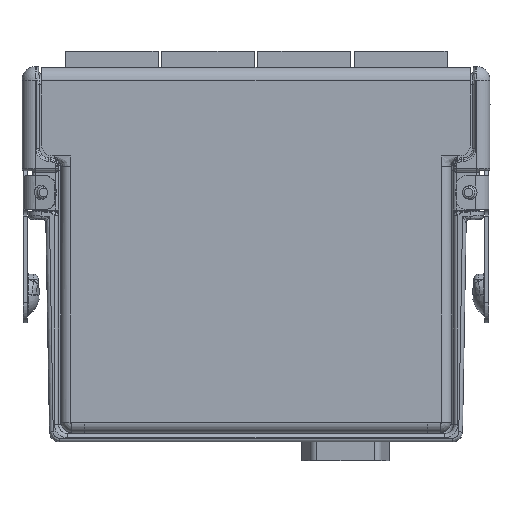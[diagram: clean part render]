
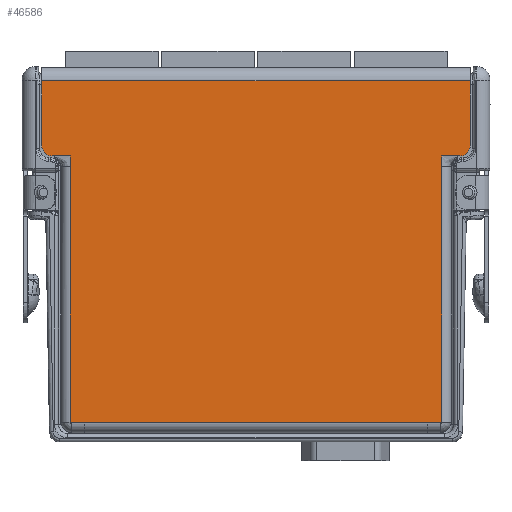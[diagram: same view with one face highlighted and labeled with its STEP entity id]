
A CAD part, left-side view. The second image highlights one B-rep face of the part: STEP entity #46586.
In plain terms, the highlighted planar face has unit normal (-1, 0, 0).
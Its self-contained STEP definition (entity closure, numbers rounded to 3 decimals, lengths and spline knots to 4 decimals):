
#18119=DIRECTION('',(0.,-1.,0.));
#18120=VECTOR('',#18119,3.179);
#18121=CARTESIAN_POINT('',(-0.4475,1.5895,2.676));
#18122=LINE('',#18121,#18120);
#18215=CARTESIAN_POINT('',(-0.4475,1.5095,2.2));
#18216=DIRECTION('',(-1.,0.,0.));
#18217=DIRECTION('',(0.,1.,0.));
#18218=AXIS2_PLACEMENT_3D('',#18215,#18216,#18217);
#18220=DIRECTION('',(0.,-1.,0.));
#18221=VECTOR('',#18220,0.133);
#18222=CARTESIAN_POINT('',(-0.4475,1.5095,2.12));
#18223=LINE('',#18222,#18221);
#18232=DIRECTION('',(0.,0.,-1.));
#18233=VECTOR('',#18232,0.476);
#18234=CARTESIAN_POINT('',(-0.4475,1.5895,2.676));
#18235=LINE('',#18234,#18233);
#18236=DIRECTION('',(0.,0.,1.));
#18237=VECTOR('',#18236,0.476);
#18238=CARTESIAN_POINT('',(-0.4475,-1.5895,2.2));
#18239=LINE('',#18238,#18237);
#18240=DIRECTION('',(0.,0.,1.));
#18241=VECTOR('',#18240,0.079);
#18242=CARTESIAN_POINT('',(-0.4475,-1.3765,2.041));
#18243=LINE('',#18242,#18241);
#18244=DIRECTION('',(0.,-1.,0.));
#18245=VECTOR('',#18244,0.105);
#18246=CARTESIAN_POINT('',(-0.4475,-1.2715,0.146));
#18247=LINE('',#18246,#18245);
#18248=DIRECTION('',(0.,-1.,0.));
#18249=VECTOR('',#18248,0.105);
#18250=CARTESIAN_POINT('',(-0.4475,1.3765,0.146));
#18251=LINE('',#18250,#18249);
#18252=DIRECTION('',(0.,0.,1.));
#18253=VECTOR('',#18252,0.079);
#18254=CARTESIAN_POINT('',(-0.4475,1.3765,2.041));
#18255=LINE('',#18254,#18253);
#18273=CARTESIAN_POINT('',(-0.4475,-1.5095,2.2));
#18274=DIRECTION('',(-1.,0.,0.));
#18275=DIRECTION('',(0.,0.,-1.));
#18276=AXIS2_PLACEMENT_3D('',#18273,#18274,#18275);
#18286=DIRECTION('',(0.,-1.,0.));
#18287=VECTOR('',#18286,0.133);
#18288=CARTESIAN_POINT('',(-0.4475,-1.3765,2.12));
#18289=LINE('',#18288,#18287);
#18321=DIRECTION('',(0.,0.,1.));
#18322=VECTOR('',#18321,1.895);
#18323=CARTESIAN_POINT('',(-0.4475,-1.3765,0.146));
#18324=LINE('',#18323,#18322);
#18512=DIRECTION('',(0.,-1.,0.));
#18513=VECTOR('',#18512,2.543);
#18514=CARTESIAN_POINT('',(-0.4475,1.2715,0.146));
#18515=LINE('',#18514,#18513);
#19614=DIRECTION('',(0.,0.,1.));
#19615=VECTOR('',#19614,1.895);
#19616=CARTESIAN_POINT('',(-0.4475,1.3765,0.146));
#19617=LINE('',#19616,#19615);
#22743=CARTESIAN_POINT('',(-0.4475,-1.5895,2.676));
#22744=VERTEX_POINT('',#22743);
#22745=CARTESIAN_POINT('',(-0.4475,1.5895,2.676));
#22746=VERTEX_POINT('',#22745);
#22775=CARTESIAN_POINT('',(-0.4475,1.2715,0.146));
#22776=CARTESIAN_POINT('',(-0.4475,-1.2715,0.146));
#22777=VERTEX_POINT('',#22775);
#22778=VERTEX_POINT('',#22776);
#22787=CARTESIAN_POINT('',(-0.4475,-1.3765,0.146));
#22788=VERTEX_POINT('',#22787);
#22799=CARTESIAN_POINT('',(-0.4475,1.3765,0.146));
#22800=VERTEX_POINT('',#22799);
#22848=CARTESIAN_POINT('',(-0.4475,1.5095,2.12));
#22850=VERTEX_POINT('',#22848);
#22853=CARTESIAN_POINT('',(-0.4475,1.5895,2.2));
#22854=VERTEX_POINT('',#22853);
#22856=CARTESIAN_POINT('',(-0.4475,-1.5895,2.2));
#22858=VERTEX_POINT('',#22856);
#22861=CARTESIAN_POINT('',(-0.4475,-1.5095,2.12));
#22862=VERTEX_POINT('',#22861);
#22875=CARTESIAN_POINT('',(-0.4475,-1.3765,2.041));
#22876=VERTEX_POINT('',#22875);
#22879=CARTESIAN_POINT('',(-0.4475,-1.3765,2.12));
#22880=VERTEX_POINT('',#22879);
#22887=CARTESIAN_POINT('',(-0.4475,1.3765,2.041));
#22888=CARTESIAN_POINT('',(-0.4475,1.3765,2.12));
#22889=VERTEX_POINT('',#22887);
#22890=VERTEX_POINT('',#22888);
#46554=CARTESIAN_POINT('',(-0.4475,0.,1.421));
#46555=DIRECTION('',(-1.,0.,0.));
#46556=DIRECTION('',(0.,1.,0.));
#46557=AXIS2_PLACEMENT_3D('',#46554,#46555,#46556);
#46558=PLANE('',#46557);
#46559=ORIENTED_EDGE('',*,*,#46535,.F.);
#46561=ORIENTED_EDGE('',*,*,#46560,.F.);
#46562=ORIENTED_EDGE('',*,*,#46419,.T.);
#46564=ORIENTED_EDGE('',*,*,#46563,.F.);
#46566=ORIENTED_EDGE('',*,*,#46565,.F.);
#46568=ORIENTED_EDGE('',*,*,#46567,.F.);
#46570=ORIENTED_EDGE('',*,*,#46569,.F.);
#46572=ORIENTED_EDGE('',*,*,#46571,.F.);
#46574=ORIENTED_EDGE('',*,*,#46573,.F.);
#46576=ORIENTED_EDGE('',*,*,#46575,.F.);
#46578=ORIENTED_EDGE('',*,*,#46577,.F.);
#46580=ORIENTED_EDGE('',*,*,#46579,.T.);
#46582=ORIENTED_EDGE('',*,*,#46581,.T.);
#46583=ORIENTED_EDGE('',*,*,#46546,.F.);
#46584=EDGE_LOOP('',(#46559,#46561,#46562,#46564,#46566,#46568,#46570,#46572,
#46574,#46576,#46578,#46580,#46582,#46583));
#46585=FACE_OUTER_BOUND('',#46584,.F.);
#46586=ADVANCED_FACE('',(#46585),#46558,.T.);
#18219=CIRCLE('',#18218,0.08);
#18277=CIRCLE('',#18276,0.08);
#46419=EDGE_CURVE('',#22746,#22744,#18122,.T.);
#46535=EDGE_CURVE('',#22854,#22850,#18219,.T.);
#46546=EDGE_CURVE('',#22850,#22890,#18223,.T.);
#46560=EDGE_CURVE('',#22746,#22854,#18235,.T.);
#46563=EDGE_CURVE('',#22858,#22744,#18239,.T.);
#46565=EDGE_CURVE('',#22862,#22858,#18277,.T.);
#46567=EDGE_CURVE('',#22880,#22862,#18289,.T.);
#46569=EDGE_CURVE('',#22876,#22880,#18243,.T.);
#46571=EDGE_CURVE('',#22788,#22876,#18324,.T.);
#46573=EDGE_CURVE('',#22778,#22788,#18247,.T.);
#46575=EDGE_CURVE('',#22777,#22778,#18515,.T.);
#46577=EDGE_CURVE('',#22800,#22777,#18251,.T.);
#46579=EDGE_CURVE('',#22800,#22889,#19617,.T.);
#46581=EDGE_CURVE('',#22889,#22890,#18255,.T.);
